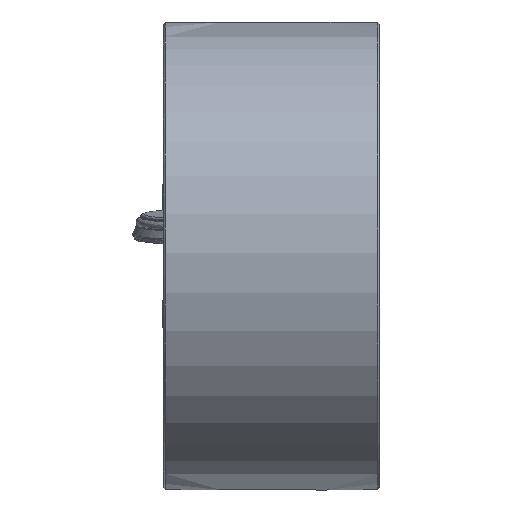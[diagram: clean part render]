
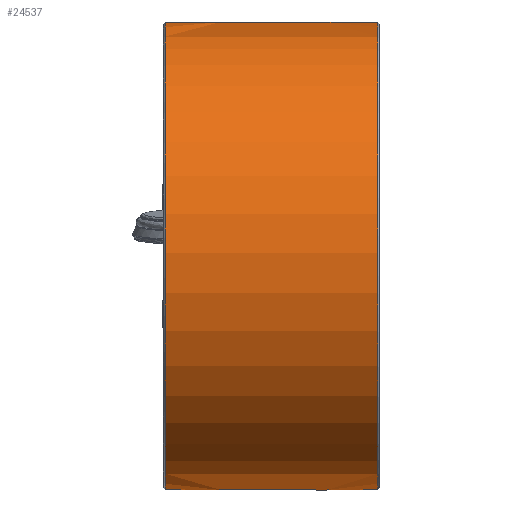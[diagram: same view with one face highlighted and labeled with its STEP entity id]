
A CAD part, left-side view. The second image highlights one B-rep face of the part: STEP entity #24537.
In plain terms, the highlighted free-form (B-spline) face has degree [2, 1] with [7, 2] control points.
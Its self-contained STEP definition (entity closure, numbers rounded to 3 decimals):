
#23344=CARTESIAN_POINT('V19',(59.5,65.0,0.0));
#23345=VERTEX_POINT('V19',#23344);
#23369=CARTESIAN_POINT('E28',(59.5,65.0,0.0));
#23370=CARTESIAN_POINT('E28',(59.5,65.,
   -112.583));
#23371=CARTESIAN_POINT('E28',(59.5,-32.5,
   -56.292));
#23372=CARTESIAN_POINT('E28',(59.5,
   -130.,0.));
#23373=CARTESIAN_POINT('E28',(59.5,-32.5,
   56.292));
#23374=CARTESIAN_POINT('E28',(59.5,65.0,
   112.583));
#23375=CARTESIAN_POINT('E28',(59.5,65.0,0.0));
#23383=(BOUNDED_CURVE()B_SPLINE_CURVE(2,(#23369,#23370,#23371,
   #23372,#23373,#23374,#23375),.CIRCULAR_ARC.,.T.,.U.)
   B_SPLINE_CURVE_WITH_KNOTS((3,2,2,3),(0.0,3.816,
   7.633,11.449),.UNSPECIFIED.)CURVE()
   GEOMETRIC_REPRESENTATION_ITEM()RATIONAL_B_SPLINE_CURVE((1.0,
   0.5,1.0,0.5,1.0,0.5,1.0)
   )REPRESENTATION_ITEM('E28'));
#23384=EDGE_CURVE('E28',#23345,#23345,#23383,.T.);
#24361=CARTESIAN_POINT('V17',(52.03,65.,
   0.0));
#24362=VERTEX_POINT('V17',#24361);
#24363=CARTESIAN_POINT('V3',(52.03,52.5,
   38.324));
#24364=VERTEX_POINT('V3',#24363);
#24365=CARTESIAN_POINT('E23',(52.03,65.,
   0.0));
#24366=CARTESIAN_POINT('E23',(52.03,65.,
   21.201));
#24367=CARTESIAN_POINT('E23',(52.03,52.5,
   38.324));
#24375=(BOUNDED_CURVE()B_SPLINE_CURVE(2,(#24365,#24366,#24367),
   .CIRCULAR_ARC.,.F.,.U.)CURVE()GEOMETRIC_REPRESENTATION_ITEM()
   QUASI_UNIFORM_CURVE()RATIONAL_B_SPLINE_CURVE((1.0,
   0.842,0.784))REPRESENTATION_ITEM('E23'));
#24376=EDGE_CURVE('E23',#24362,#24364,#24375,.T.);
#24378=CARTESIAN_POINT('V2',(52.03,52.5,
   -38.324));
#24379=VERTEX_POINT('V2',#24378);
#24385=CARTESIAN_POINT('E24',(52.03,52.5,
   -38.324));
#24386=CARTESIAN_POINT('E24',(52.03,65.,
   -21.201));
#24387=CARTESIAN_POINT('E24',(52.03,65.,
   0.0));
#24395=(BOUNDED_CURVE()B_SPLINE_CURVE(2,(#24385,#24386,#24387),
   .CIRCULAR_ARC.,.F.,.U.)CURVE()GEOMETRIC_REPRESENTATION_ITEM()
   QUASI_UNIFORM_CURVE()RATIONAL_B_SPLINE_CURVE((0.784,
   0.842,1.0))REPRESENTATION_ITEM('E24'));
#24396=EDGE_CURVE('E24',#24379,#24362,#24395,.T.);
#24406=CARTESIAN_POINT('V1',(17.97,52.5,
   -38.324));
#24407=VERTEX_POINT('V1',#24406);
#24408=CARTESIAN_POINT('E1',(17.97,52.5,
   -38.324));
#24409=CARTESIAN_POINT('E1',(52.03,52.5,
   -38.324));
#24410=QUASI_UNIFORM_CURVE('E1',1,(#24408,#24409),.POLYLINE_FORM.,
   .F.,.U.);
#24411=EDGE_CURVE('E1',#24407,#24379,#24410,.T.);
#24414=CARTESIAN_POINT('V4',(17.97,52.5,
   38.324));
#24415=VERTEX_POINT('V4',#24414);
#24416=CARTESIAN_POINT('E3',(52.03,52.5,
   38.324));
#24417=CARTESIAN_POINT('E3',(17.97,52.5,
   38.324));
#24418=QUASI_UNIFORM_CURVE('E3',1,(#24416,#24417),.POLYLINE_FORM.,
   .F.,.U.);
#24419=EDGE_CURVE('E3',#24364,#24415,#24418,.T.);
#24443=CARTESIAN_POINT('V18',(17.97,65.,
   0.0));
#24444=VERTEX_POINT('V18',#24443);
#24445=CARTESIAN_POINT('E25',(17.97,65.,
   0.0));
#24446=CARTESIAN_POINT('E25',(17.97,65.,
   -21.201));
#24447=CARTESIAN_POINT('E25',(17.97,52.5,
   -38.324));
#24455=(BOUNDED_CURVE()B_SPLINE_CURVE(2,(#24445,#24446,#24447),
   .CIRCULAR_ARC.,.F.,.U.)CURVE()GEOMETRIC_REPRESENTATION_ITEM()
   QUASI_UNIFORM_CURVE()RATIONAL_B_SPLINE_CURVE((1.0,
   0.842,0.784))REPRESENTATION_ITEM('E25'));
#24456=EDGE_CURVE('E25',#24444,#24407,#24455,.T.);
#24459=CARTESIAN_POINT('E26',(17.97,52.5,
   38.324));
#24460=CARTESIAN_POINT('E26',(17.97,65.,
   21.201));
#24461=CARTESIAN_POINT('E26',(17.97,65.,
   0.0));
#24469=(BOUNDED_CURVE()B_SPLINE_CURVE(2,(#24459,#24460,#24461),
   .CIRCULAR_ARC.,.F.,.U.)CURVE()GEOMETRIC_REPRESENTATION_ITEM()
   QUASI_UNIFORM_CURVE()RATIONAL_B_SPLINE_CURVE((0.784,
   0.842,1.0))REPRESENTATION_ITEM('E26'));
#24470=EDGE_CURVE('E26',#24415,#24444,#24469,.T.);
#24475=CARTESIAN_POINT('F13',(0.5,65.0,0.0));
#24476=CARTESIAN_POINT('F13',(0.5,65.0,
   112.583));
#24477=CARTESIAN_POINT('F13',(0.5,-32.5,
   56.292));
#24478=CARTESIAN_POINT('F13',(0.5,-130.,
   0.));
#24479=CARTESIAN_POINT('F13',(0.5,-32.5,
   -56.292));
#24480=CARTESIAN_POINT('F13',(0.5,65.,
   -112.583));
#24481=CARTESIAN_POINT('F13',(0.5,65.0,0.0));
#24482=CARTESIAN_POINT('F13',(59.5,65.0,0.0));
#24483=CARTESIAN_POINT('F13',(59.5,65.0,
   112.583));
#24484=CARTESIAN_POINT('F13',(59.5,-32.5,
   56.292));
#24485=CARTESIAN_POINT('F13',(59.5,
   -130.,0.));
#24486=CARTESIAN_POINT('F13',(59.5,-32.5,
   -56.292));
#24487=CARTESIAN_POINT('F13',(59.5,65.,
   -112.583));
#24488=CARTESIAN_POINT('F13',(59.5,65.0,0.0));
#24496=(BOUNDED_SURFACE()B_SPLINE_SURFACE(2,1,((#24475,#24482),(
   #24476,#24483),(#24477,#24484),(#24478,#24485),(#24479,
   #24486),(#24480,#24487),(#24481,#24488)),.CYLINDRICAL_SURF.,
   .T.,.F.,.U.)B_SPLINE_SURFACE_WITH_KNOTS((3,2,2,3),(2,2),(0.0,
   3.816,7.633,11.449),(0.0,1.0),
   .UNSPECIFIED.)GEOMETRIC_REPRESENTATION_ITEM()
   RATIONAL_B_SPLINE_SURFACE(((1.0,1.0),(0.5,
   0.5),(1.0,1.0),(0.5,
   0.5),(1.0,1.0),(0.5,
   0.5),(1.0,1.0)))REPRESENTATION_ITEM('F13')SURFACE(
   ));
#24497=ORIENTED_EDGE('E25',*,*,#24456,.F.);
#24498=CARTESIAN_POINT('V20',(0.5,65.0,0.0));
#24499=VERTEX_POINT('V20',#24498);
#24500=CARTESIAN_POINT('E29',(17.97,65.0,0.0));
#24501=CARTESIAN_POINT('E29',(0.5,65.0,0.0));
#24502=B_SPLINE_CURVE_WITH_KNOTS('E29',1,(#24500,#24501),
   .POLYLINE_FORM.,.F.,.U.,(2,2),(0.704,1.0),
   .UNSPECIFIED.);
#24503=EDGE_CURVE('E29',#24444,#24499,#24502,.T.);
#24504=ORIENTED_EDGE('E29',*,*,#24503,.T.);
#24505=CARTESIAN_POINT('E30',(0.5,65.0,0.0));
#24506=CARTESIAN_POINT('E30',(0.5,65.,
   -112.583));
#24507=CARTESIAN_POINT('E30',(0.5,-32.5,
   -56.292));
#24508=CARTESIAN_POINT('E30',(0.5,-130.,
   0.));
#24509=CARTESIAN_POINT('E30',(0.5,-32.5,
   56.292));
#24510=CARTESIAN_POINT('E30',(0.5,65.0,
   112.583));
#24511=CARTESIAN_POINT('E30',(0.5,65.0,0.0));
#24519=(BOUNDED_CURVE()B_SPLINE_CURVE(2,(#24505,#24506,#24507,
   #24508,#24509,#24510,#24511),.CIRCULAR_ARC.,.T.,.U.)
   B_SPLINE_CURVE_WITH_KNOTS((3,2,2,3),(0.0,317.209,
   634.418,951.627),.UNSPECIFIED.)CURVE()
   GEOMETRIC_REPRESENTATION_ITEM()RATIONAL_B_SPLINE_CURVE((1.0,
   0.5,1.0,0.5,1.0,0.5,1.0)
   )REPRESENTATION_ITEM('E30'));
#24520=EDGE_CURVE('E30',#24499,#24499,#24519,.T.);
#24521=ORIENTED_EDGE('E30',*,*,#24520,.T.);
#24522=ORIENTED_EDGE('E29',*,*,#24503,.F.);
#24523=ORIENTED_EDGE('F12',*,*,#24470,.F.);
#24524=ORIENTED_EDGE('E3',*,*,#24419,.F.);
#24525=ORIENTED_EDGE('E23',*,*,#24376,.F.);
#24526=CARTESIAN_POINT('E27',(59.5,65.0,0.0));
#24527=CARTESIAN_POINT('E27',(52.03,65.0,0.0));
#24528=B_SPLINE_CURVE_WITH_KNOTS('E27',1,(#24526,#24527),
   .POLYLINE_FORM.,.F.,.U.,(2,2),(0.0,0.127),
   .UNSPECIFIED.);
#24529=EDGE_CURVE('E27',#23345,#24362,#24528,.T.);
#24530=ORIENTED_EDGE('E27',*,*,#24529,.F.);
#24531=ORIENTED_EDGE('F15',*,*,#23384,.F.);
#24532=ORIENTED_EDGE('E27',*,*,#24529,.T.);
#24533=ORIENTED_EDGE('F11',*,*,#24396,.F.);
#24534=ORIENTED_EDGE('E1',*,*,#24411,.F.);
#24535=EDGE_LOOP('F13',(#24497,#24504,#24521,#24522,#24523,#24524,
   #24525,#24530,#24531,#24532,#24533,#24534));
#24536=FACE_OUTER_BOUND('F13',#24535,.F.);
#24537=ADVANCED_FACE('F13',(#24536),#24496,.T.);
